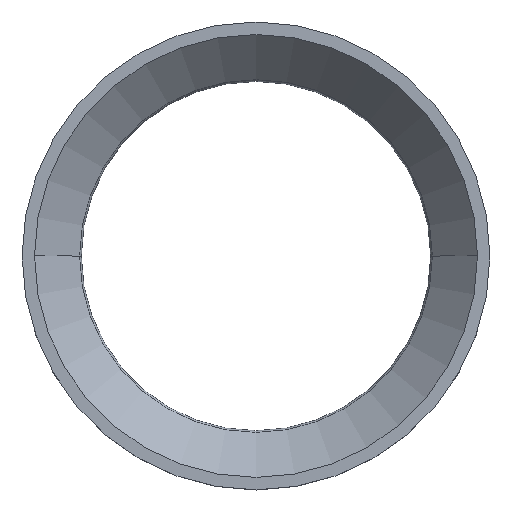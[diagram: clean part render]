
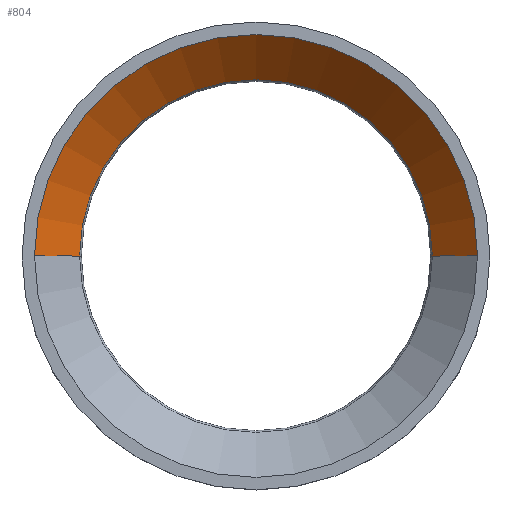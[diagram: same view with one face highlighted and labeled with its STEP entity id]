
A CAD part, top view. The second image highlights one B-rep face of the part: STEP entity #804.
In plain terms, the highlighted conical face has half-angle 45 degrees and reference radius 63.793 mm.
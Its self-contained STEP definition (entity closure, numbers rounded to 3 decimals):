
#112=DIRECTION('',(-0.707,0.,-0.707));
#113=VECTOR('',#112,20.385);
#114=CARTESIAN_POINT('',(71.,0.,25.));
#115=LINE('',#114,#113);
#116=CARTESIAN_POINT('',(0.,0.,
10.586));
#117=DIRECTION('',(0.,0.,1.));
#118=DIRECTION('',(1.,0.,0.));
#119=AXIS2_PLACEMENT_3D('',#116,#117,#118);
#121=DIRECTION('',(0.707,0.,-0.707));
#122=VECTOR('',#121,20.385);
#123=CARTESIAN_POINT('',(-71.,0.,
25.));
#124=LINE('',#123,#122);
#140=CARTESIAN_POINT('',(0.,0.,
25.));
#141=DIRECTION('',(0.,0.,-1.));
#142=DIRECTION('',(-1.,0.,0.));
#143=AXIS2_PLACEMENT_3D('',#140,#141,#142);
#519=CARTESIAN_POINT('',(71.,0.,
25.));
#520=CARTESIAN_POINT('',(-71.,0.,25.));
#521=VERTEX_POINT('',#519);
#522=VERTEX_POINT('',#520);
#527=CARTESIAN_POINT('',(-56.586,0.,
10.586));
#528=CARTESIAN_POINT('',(56.586,0.,10.586));
#529=VERTEX_POINT('',#527);
#530=VERTEX_POINT('',#528);
#792=CARTESIAN_POINT('',(0.,0.,
17.793));
#793=DIRECTION('',(0.,0.,1.));
#794=DIRECTION('',(0.,-1.,0.));
#795=AXIS2_PLACEMENT_3D('',#792,#793,#794);
#796=CONICAL_SURFACE('',#795,63.793,45.);
#797=ORIENTED_EDGE('',*,*,#757,.T.);
#798=ORIENTED_EDGE('',*,*,#787,.F.);
#800=ORIENTED_EDGE('',*,*,#799,.T.);
#801=ORIENTED_EDGE('',*,*,#783,.T.);
#802=EDGE_LOOP('',(#797,#798,#800,#801));
#803=FACE_OUTER_BOUND('',#802,.F.);
#120=CIRCLE('',#119,56.586);
#144=CIRCLE('',#143,71.);
#757=EDGE_CURVE('',#530,#529,#120,.T.);
#783=EDGE_CURVE('',#521,#530,#115,.T.);
#787=EDGE_CURVE('',#522,#529,#124,.T.);
#799=EDGE_CURVE('',#522,#521,#144,.T.);
#804=ADVANCED_FACE('',(#803),#796,.F.);
